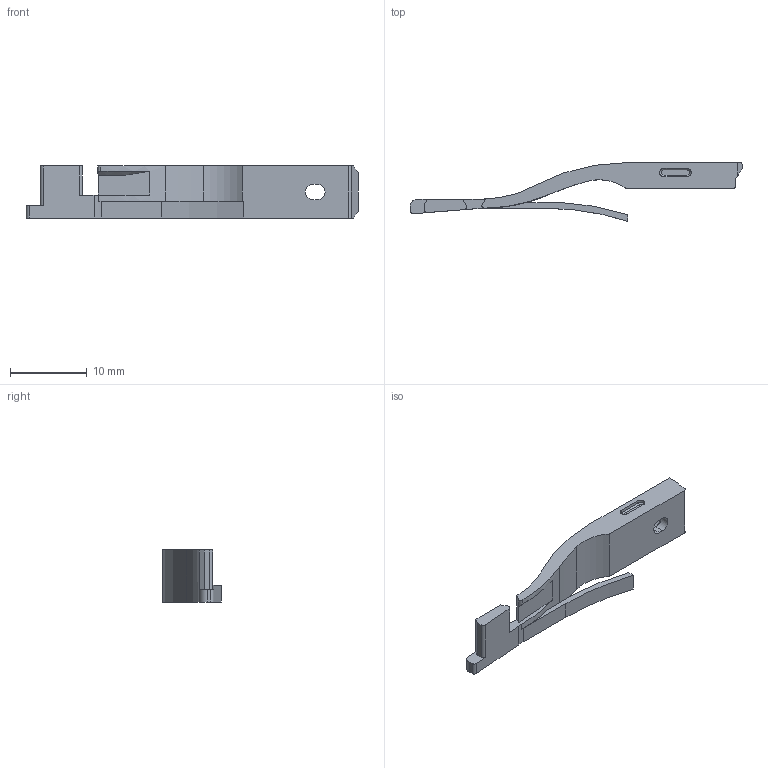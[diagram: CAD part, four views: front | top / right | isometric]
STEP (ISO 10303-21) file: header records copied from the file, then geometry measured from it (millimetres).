
FILE_DESCRIPTION (( 'STEP AP214' ), '1' );
FILE_NAME ('PPBF-AS2-TopClampingPlate_08-0402-V1.1.STEP', '2025-09-08T11:19:39', ( '' ), ( '' ), 'SwSTEP 2.0', 'SolidWorks 2020', '' );
FILE_SCHEMA (( 'AUTOMOTIVE_DESIGN' ));
Length unit declared in the file: millimetre
Products named in the file (1): PPBF-AS2-TopClampingPlate_08-0402-V1.1
Bounding box: 43.36 x 7.65 x 6.8 mm (x, y, z)
Volume: 628.5 mm3; surface area: 920.8 mm2
Topology: 1 solids, 1 shells, 74 faces, 196 edges, 127 vertices
Faces by surface type: plane 43, cylinder 24, cone 7
Entity records: 2333 total; most frequent: CARTESIAN_POINT 427, ORIENTED_EDGE 392, DIRECTION 392, EDGE_CURVE 196, VECTOR 132, LINE 132, AXIS2_PLACEMENT_3D 130, VERTEX_POINT 127
